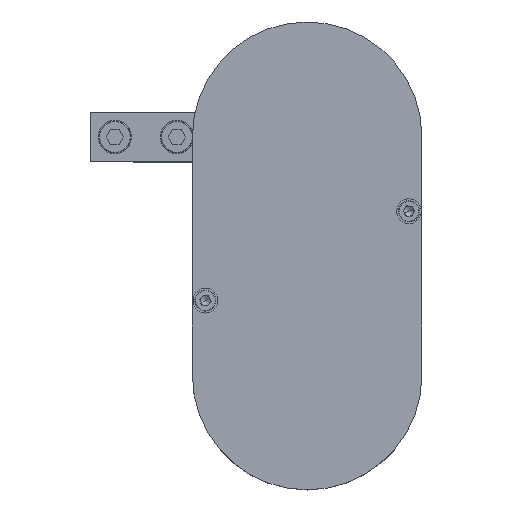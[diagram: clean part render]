
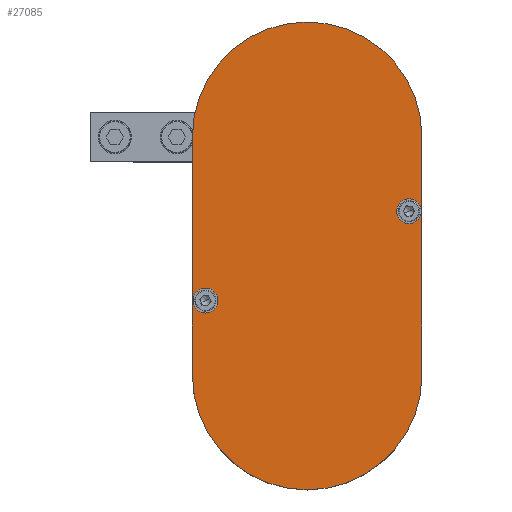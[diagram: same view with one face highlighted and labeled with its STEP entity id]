
A CAD part, top view. The second image highlights one B-rep face of the part: STEP entity #27085.
In plain terms, the highlighted planar face has unit normal (0, 0, 1) as drawn and (0, 0, -1) by its records, which use the part's own axes.
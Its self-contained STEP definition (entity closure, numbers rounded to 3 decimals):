
#3023 = EDGE_CURVE ( 'NONE', #11040, #61179, #36294, .T. ) ;
#3854 = PLANE ( 'NONE',  #30455 ) ;
#5083 = DIRECTION ( 'NONE',  ( -1., 0., 0. ) ) ;
#5262 = DIRECTION ( 'NONE',  ( 0., 0., -1. ) ) ;
#5557 = AXIS2_PLACEMENT_3D ( 'NONE', #27140, #60447, #5083 ) ;
#6716 = VECTOR ( 'NONE', #13285, 1000. ) ;
#8231 = CIRCLE ( 'NONE', #41909, 3. ) ;
#9256 = DIRECTION ( 'NONE',  ( 0., 0., 1. ) ) ;
#11040 = VERTEX_POINT ( 'NONE', #20703 ) ;
#11898 = ORIENTED_EDGE ( 'NONE', *, *, #3023, .F. ) ;
#13062 = EDGE_CURVE ( 'NONE', #61179, #57545, #50496, .T. ) ;
#13285 = DIRECTION ( 'NONE',  ( 0., 1., 0. ) ) ;
#15880 = VERTEX_POINT ( 'NONE', #67293 ) ;
#16620 = DIRECTION ( 'NONE',  ( 0., 0., -1. ) ) ;
#17640 = VERTEX_POINT ( 'NONE', #31983 ) ;
#19415 = CARTESIAN_POINT ( 'NONE',  ( 0., -96., 0. ) ) ;
#19969 = DIRECTION ( 'NONE',  ( 1., 0., 0. ) ) ;
#20666 = DIRECTION ( 'NONE',  ( 0., 0., 1. ) ) ;
#20703 = CARTESIAN_POINT ( 'NONE',  ( -46.25, 0., 0. ) ) ;
#21457 = ORIENTED_EDGE ( 'NONE', *, *, #51338, .F. ) ;
#21654 = CARTESIAN_POINT ( 'NONE',  ( -41., -30., 0. ) ) ;
#22953 = VERTEX_POINT ( 'NONE', #58680 ) ;
#23106 = AXIS2_PLACEMENT_3D ( 'NONE', #21654, #16620, #60970 ) ;
#23873 = LINE ( 'NONE', #35787, #6716 ) ;
#26203 = DIRECTION ( 'NONE',  ( 0., -1., 0. ) ) ;
#26343 = ORIENTED_EDGE ( 'NONE', *, *, #66933, .F. ) ;
#26661 = ORIENTED_EDGE ( 'NONE', *, *, #64920, .F. ) ;
#26887 = DIRECTION ( 'NONE',  ( 0., 0., -1. ) ) ;
#27085 = ADVANCED_FACE ( 'NONE', ( #66611, #56318, #52851 ), #3854, .F. ) ;
#27134 = EDGE_CURVE ( 'NONE', #17640, #51907, #8231, .T. ) ;
#27140 = CARTESIAN_POINT ( 'NONE',  ( 41., -66., 0. ) ) ;
#27794 = DIRECTION ( 'NONE',  ( -1., 0., 0. ) ) ;
#28478 = CARTESIAN_POINT ( 'NONE',  ( 0., 0., 0. ) ) ;
#30455 = AXIS2_PLACEMENT_3D ( 'NONE', #36420, #20666, #19969 ) ;
#31138 = AXIS2_PLACEMENT_3D ( 'NONE', #32567, #5262, #27794 ) ;
#31983 = CARTESIAN_POINT ( 'NONE',  ( -38., -30., 0. ) ) ;
#32567 = CARTESIAN_POINT ( 'NONE',  ( 41., -66., 0. ) ) ;
#33087 = CIRCLE ( 'NONE', #37166, 46.25 ) ;
#35787 = CARTESIAN_POINT ( 'NONE',  ( 46.25, -96., 0. ) ) ;
#35798 = CIRCLE ( 'NONE', #23106, 3. ) ;
#36126 = CIRCLE ( 'NONE', #5557, 3. ) ;
#36294 = LINE ( 'NONE', #70577, #53497 ) ;
#36420 = CARTESIAN_POINT ( 'NONE',  ( 0., 0., 0. ) ) ;
#37166 = AXIS2_PLACEMENT_3D ( 'NONE', #28478, #66853, #62270 ) ;
#38111 = DIRECTION ( 'NONE',  ( -1., 0., 0. ) ) ;
#39990 = EDGE_CURVE ( 'NONE', #15880, #11040, #33087, .T. ) ;
#41909 = AXIS2_PLACEMENT_3D ( 'NONE', #65469, #26887, #38111 ) ;
#44333 = EDGE_LOOP ( 'NONE', ( #26661, #21457 ) ) ;
#45888 = EDGE_CURVE ( 'NONE', #51907, #17640, #35798, .T. ) ;
#49400 = CIRCLE ( 'NONE', #31138, 3. ) ;
#49773 = CARTESIAN_POINT ( 'NONE',  ( -46.25, -96., 0. ) ) ;
#49898 = CARTESIAN_POINT ( 'NONE',  ( 46.25, -96., 0. ) ) ;
#50496 = CIRCLE ( 'NONE', #64022, 46.25 ) ;
#50737 = CARTESIAN_POINT ( 'NONE',  ( -44., -30., 0. ) ) ;
#51338 = EDGE_CURVE ( 'NONE', #51537, #22953, #49400, .T. ) ;
#51537 = VERTEX_POINT ( 'NONE', #57035 ) ;
#51826 = ORIENTED_EDGE ( 'NONE', *, *, #45888, .F. ) ;
#51907 = VERTEX_POINT ( 'NONE', #50737 ) ;
#52851 = FACE_OUTER_BOUND ( 'NONE', #65707, .T. ) ;
#53497 = VECTOR ( 'NONE', #26203, 1000. ) ;
#56318 = FACE_BOUND ( 'NONE', #44333, .T. ) ;
#57035 = CARTESIAN_POINT ( 'NONE',  ( 44., -66., 0. ) ) ;
#57545 = VERTEX_POINT ( 'NONE', #49898 ) ;
#58457 = DIRECTION ( 'NONE',  ( 1., 0., 0. ) ) ;
#58680 = CARTESIAN_POINT ( 'NONE',  ( 38., -66., 0. ) ) ;
#60447 = DIRECTION ( 'NONE',  ( 0., 0., -1. ) ) ;
#60467 = ORIENTED_EDGE ( 'NONE', *, *, #13062, .F. ) ;
#60970 = DIRECTION ( 'NONE',  ( -1., 0., 0. ) ) ;
#61179 = VERTEX_POINT ( 'NONE', #49773 ) ;
#62270 = DIRECTION ( 'NONE',  ( 1., 0., 0. ) ) ;
#64022 = AXIS2_PLACEMENT_3D ( 'NONE', #19415, #9256, #58457 ) ;
#64920 = EDGE_CURVE ( 'NONE', #22953, #51537, #36126, .T. ) ;
#65469 = CARTESIAN_POINT ( 'NONE',  ( -41., -30., 0. ) ) ;
#65707 = EDGE_LOOP ( 'NONE', ( #66453, #26343, #60467, #11898 ) ) ;
#66453 = ORIENTED_EDGE ( 'NONE', *, *, #39990, .F. ) ;
#66611 = FACE_BOUND ( 'NONE', #70652, .T. ) ;
#66853 = DIRECTION ( 'NONE',  ( 0., 0., 1. ) ) ;
#66933 = EDGE_CURVE ( 'NONE', #57545, #15880, #23873, .T. ) ;
#67293 = CARTESIAN_POINT ( 'NONE',  ( 46.25, 0., 0. ) ) ;
#70505 = ORIENTED_EDGE ( 'NONE', *, *, #27134, .F. ) ;
#70577 = CARTESIAN_POINT ( 'NONE',  ( -46.25, 0., 0. ) ) ;
#70652 = EDGE_LOOP ( 'NONE', ( #51826, #70505 ) ) ;
